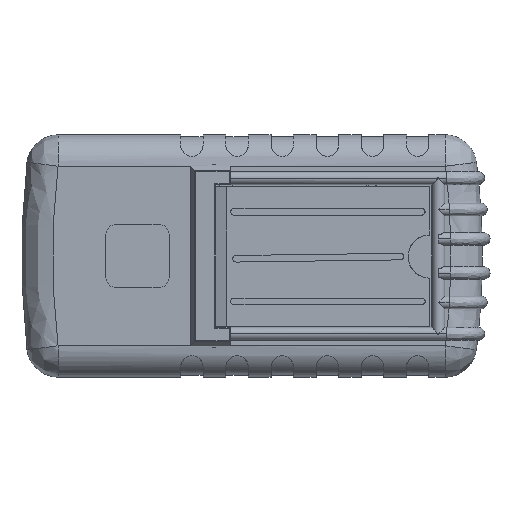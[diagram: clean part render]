
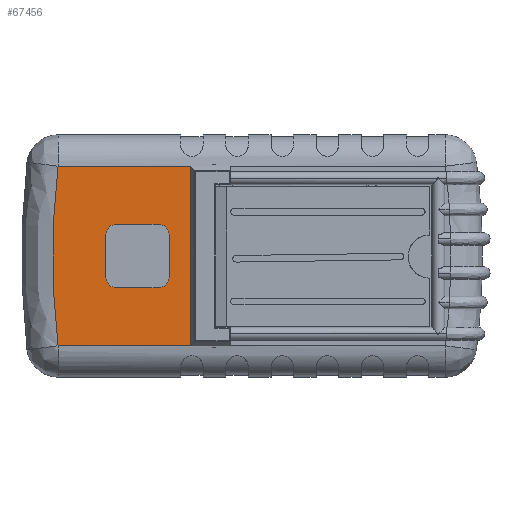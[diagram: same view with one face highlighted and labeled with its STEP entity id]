
A CAD part, front view. The second image highlights one B-rep face of the part: STEP entity #67456.
In plain terms, the highlighted planar face has unit normal (0, -1, 0).
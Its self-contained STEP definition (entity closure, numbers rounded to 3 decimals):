
#369 = AXIS2_PLACEMENT_3D ( 'NONE', #8953, #53883, #15347 ) ;
#766 = DIRECTION ( 'NONE',  ( 0., 1., 0. ) ) ;
#1249 = EDGE_CURVE ( 'NONE', #50047, #43560, #68192, .T. ) ;
#2076 = EDGE_LOOP ( 'NONE', ( #18067, #21498, #61339, #15951, #13485, #79275, #70528, #44373 ) ) ;
#2474 = CARTESIAN_POINT ( 'NONE',  ( -64.918, 0., -10.312 ) ) ;
#4381 = EDGE_CURVE ( 'NONE', #41503, #39434, #22985, .T. ) ;
#4861 = AXIS2_PLACEMENT_3D ( 'NONE', #72662, #73599, #73109 ) ;
#5173 = LINE ( 'NONE', #63103, #22190 ) ;
#5432 = VERTEX_POINT ( 'NONE', #52346 ) ;
#6209 = CARTESIAN_POINT ( 'NONE',  ( -44.294, 0., 10.312 ) ) ;
#8953 = CARTESIAN_POINT ( 'NONE',  ( 0., 0., 0. ) ) ;
#9082 = VECTOR ( 'NONE', #46818, 1000. ) ;
#9312 = EDGE_CURVE ( 'NONE', #39434, #35245, #82837, .T. ) ;
#9337 = VERTEX_POINT ( 'NONE', #27421 ) ;
#10617 = CARTESIAN_POINT ( 'NONE',  ( -69.694, 0., 10.312 ) ) ;
#12291 = VERTEX_POINT ( 'NONE', #46493 ) ;
#12566 = DIRECTION ( 'NONE',  ( 0., 0., -1. ) ) ;
#12569 = VERTEX_POINT ( 'NONE', #40161 ) ;
#12674 = EDGE_CURVE ( 'NONE', #29532, #12291, #65638, .T. ) ;
#13485 = ORIENTED_EDGE ( 'NONE', *, *, #4381, .T. ) ;
#13604 = CARTESIAN_POINT ( 'NONE',  ( -44.294, 0., -10.312 ) ) ;
#15347 = DIRECTION ( 'NONE',  ( 0., 0., 1. ) ) ;
#15951 = ORIENTED_EDGE ( 'NONE', *, *, #24879, .T. ) ;
#18067 = ORIENTED_EDGE ( 'NONE', *, *, #46316, .T. ) ;
#20966 = VERTEX_POINT ( 'NONE', #49433 ) ;
#21226 = DIRECTION ( 'NONE',  ( 0., 0., -1. ) ) ;
#21498 = ORIENTED_EDGE ( 'NONE', *, *, #39523, .T. ) ;
#21717 = CARTESIAN_POINT ( 'NONE',  ( -44.294, 0., 15.088 ) ) ;
#22190 = VECTOR ( 'NONE', #31011, 1000. ) ;
#22650 = ORIENTED_EDGE ( 'NONE', *, *, #70891, .F. ) ;
#22985 = CIRCLE ( 'NONE', #4861, 4.775 ) ;
#24358 = CARTESIAN_POINT ( 'NONE',  ( -69.694, 0., -10.312 ) ) ;
#24879 = EDGE_CURVE ( 'NONE', #43560, #41503, #58932, .T. ) ;
#25405 = AXIS2_PLACEMENT_3D ( 'NONE', #2474, #766, #32713 ) ;
#26746 = VECTOR ( 'NONE', #80104, 1000. ) ;
#27421 = CARTESIAN_POINT ( 'NONE',  ( -29.358, 0., -42.937 ) ) ;
#28369 = VECTOR ( 'NONE', #44284, 1000. ) ;
#28553 = CARTESIAN_POINT ( 'NONE',  ( -69.694, 0., -15.088 ) ) ;
#28856 = AXIS2_PLACEMENT_3D ( 'NONE', #13604, #59758, #21226 ) ;
#28913 = EDGE_CURVE ( 'NONE', #12291, #51698, #60389, .T. ) ;
#29532 = VERTEX_POINT ( 'NONE', #79057 ) ;
#31011 = DIRECTION ( 'NONE',  ( 0., 0., -1. ) ) ;
#31304 = CARTESIAN_POINT ( 'NONE',  ( -29.358, 0., 0. ) ) ;
#32713 = DIRECTION ( 'NONE',  ( 0., 0., -1. ) ) ;
#33529 = EDGE_CURVE ( 'NONE', #12569, #20966, #5173, .T. ) ;
#33568 = VECTOR ( 'NONE', #71060, 1000. ) ;
#34221 = CARTESIAN_POINT ( 'NONE',  ( -64.918, 0., 15.088 ) ) ;
#35050 = DIRECTION ( 'NONE',  ( -1., 0., 0. ) ) ;
#35245 = VERTEX_POINT ( 'NONE', #21717 ) ;
#37495 = DIRECTION ( 'NONE',  ( 0., 0., -1. ) ) ;
#37830 = CARTESIAN_POINT ( 'NONE',  ( 0., 0., -42.937 ) ) ;
#39434 = VERTEX_POINT ( 'NONE', #34221 ) ;
#39523 = EDGE_CURVE ( 'NONE', #5432, #50047, #78488, .T. ) ;
#40161 = CARTESIAN_POINT ( 'NONE',  ( -39.518, 0., 10.312 ) ) ;
#40328 = CARTESIAN_POINT ( 'NONE',  ( 0., 0., 42.937 ) ) ;
#40645 = PLANE ( 'NONE',  #369 ) ;
#41503 = VERTEX_POINT ( 'NONE', #10617 ) ;
#43560 = VERTEX_POINT ( 'NONE', #24358 ) ;
#44284 = DIRECTION ( 'NONE',  ( -1., 0., 0. ) ) ;
#44373 = ORIENTED_EDGE ( 'NONE', *, *, #33529, .T. ) ;
#44869 = LINE ( 'NONE', #31304, #77087 ) ;
#46316 = EDGE_CURVE ( 'NONE', #20966, #5432, #68123, .T. ) ;
#46493 = CARTESIAN_POINT ( 'NONE',  ( -92.557, 0., 42.937 ) ) ;
#46818 = DIRECTION ( 'NONE',  ( 1., 0., 0. ) ) ;
#47575 = ORIENTED_EDGE ( 'NONE', *, *, #12674, .F. ) ;
#49433 = CARTESIAN_POINT ( 'NONE',  ( -39.518, 0., -10.312 ) ) ;
#50047 = VERTEX_POINT ( 'NONE', #79077 ) ;
#51064 = DIRECTION ( 'NONE',  ( 0., 1., 0. ) ) ;
#51187 = EDGE_LOOP ( 'NONE', ( #70449, #47575, #22650, #71427 ) ) ;
#51698 = VERTEX_POINT ( 'NONE', #61666 ) ;
#52346 = CARTESIAN_POINT ( 'NONE',  ( -44.294, 0., -15.088 ) ) ;
#52603 = CIRCLE ( 'NONE', #64810, 4.775 ) ;
#53168 = CARTESIAN_POINT ( 'NONE',  ( -92.557, 0., 42.937 ) ) ;
#53444 = CARTESIAN_POINT ( 'NONE',  ( -96.131, 0., 14.387 ) ) ;
#53883 = DIRECTION ( 'NONE',  ( 0., 1., 0. ) ) ;
#54575 = CARTESIAN_POINT ( 'NONE',  ( -92.557, 0., -42.937 ) ) ;
#55120 = CARTESIAN_POINT ( 'NONE',  ( -96.131, 0., -14.387 ) ) ;
#56801 = FACE_BOUND ( 'NONE', #2076, .T. ) ;
#57071 = EDGE_CURVE ( 'NONE', #51698, #9337, #44869, .T. ) ;
#58932 = LINE ( 'NONE', #73638, #26746 ) ;
#59758 = DIRECTION ( 'NONE',  ( 0., 1., 0. ) ) ;
#60389 = LINE ( 'NONE', #40328, #9082 ) ;
#61339 = ORIENTED_EDGE ( 'NONE', *, *, #1249, .T. ) ;
#61452 = VECTOR ( 'NONE', #35050, 1000. ) ;
#61666 = CARTESIAN_POINT ( 'NONE',  ( -29.358, 0., 42.937 ) ) ;
#62625 = LINE ( 'NONE', #37830, #28369 ) ;
#63103 = CARTESIAN_POINT ( 'NONE',  ( -39.518, 0., -15.088 ) ) ;
#64810 = AXIS2_PLACEMENT_3D ( 'NONE', #6209, #51064, #12566 ) ;
#65638 =( BOUNDED_CURVE ( )  B_SPLINE_CURVE ( 3, ( #54575, #55120, #53444, #53168 ),
 .UNSPECIFIED., .F., .T. ) 
 B_SPLINE_CURVE_WITH_KNOTS ( ( 4, 4 ),
 ( 0., 1. ),
 .UNSPECIFIED. ) 
 CURVE ( )  GEOMETRIC_REPRESENTATION_ITEM ( )  RATIONAL_B_SPLINE_CURVE ( ( 1., 0.995, 0.995, 1. ) ) 
 REPRESENTATION_ITEM ( '' )  );
#67456 = ADVANCED_FACE ( 'NONE', ( #71918, #56801 ), #40645, .F. ) ;
#68123 = CIRCLE ( 'NONE', #28856, 4.775 ) ;
#68192 = CIRCLE ( 'NONE', #25405, 4.775 ) ;
#70449 = ORIENTED_EDGE ( 'NONE', *, *, #28913, .F. ) ;
#70528 = ORIENTED_EDGE ( 'NONE', *, *, #81966, .T. ) ;
#70891 = EDGE_CURVE ( 'NONE', #9337, #29532, #62625, .T. ) ;
#71060 = DIRECTION ( 'NONE',  ( 1., 0., 0. ) ) ;
#71326 = CARTESIAN_POINT ( 'NONE',  ( -69.694, 0., 15.088 ) ) ;
#71427 = ORIENTED_EDGE ( 'NONE', *, *, #57071, .F. ) ;
#71918 = FACE_OUTER_BOUND ( 'NONE', #51187, .T. ) ;
#72662 = CARTESIAN_POINT ( 'NONE',  ( -64.918, 0., 10.312 ) ) ;
#73109 = DIRECTION ( 'NONE',  ( 0., 0., -1. ) ) ;
#73599 = DIRECTION ( 'NONE',  ( 0., 1., 0. ) ) ;
#73638 = CARTESIAN_POINT ( 'NONE',  ( -69.694, 0., -15.088 ) ) ;
#77087 = VECTOR ( 'NONE', #37495, 1000. ) ;
#78488 = LINE ( 'NONE', #28553, #61452 ) ;
#79057 = CARTESIAN_POINT ( 'NONE',  ( -92.557, 0., -42.937 ) ) ;
#79077 = CARTESIAN_POINT ( 'NONE',  ( -64.918, 0., -15.088 ) ) ;
#79275 = ORIENTED_EDGE ( 'NONE', *, *, #9312, .T. ) ;
#80104 = DIRECTION ( 'NONE',  ( 0., 0., 1. ) ) ;
#81966 = EDGE_CURVE ( 'NONE', #35245, #12569, #52603, .T. ) ;
#82837 = LINE ( 'NONE', #71326, #33568 ) ;
